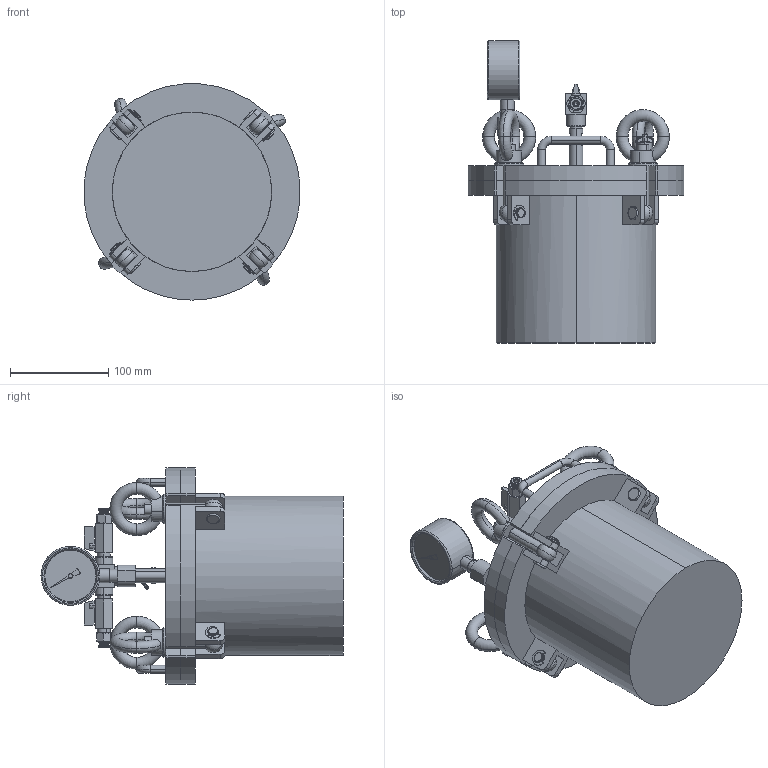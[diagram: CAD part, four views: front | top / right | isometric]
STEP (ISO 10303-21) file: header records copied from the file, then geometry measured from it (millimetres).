
FILE_DESCRIPTION (( 'STEP AP203' ), '1' );
FILE_NAME ('揤漱嫡-Pressurized helium tank_NY21025.STEP', '2026-09-02T05:31:10', ( '' ), ( '' ), 'SwSTEP 2.0', 'SolidWorks 2024', '' );
FILE_SCHEMA (( 'CONFIG_CONTROL_DESIGN' ));
Length unit declared in the file: millimetre
Products named in the file (1): 压氦罐-Pressurized helium tank_NY21025
Bounding box: 219.31 x 307 x 219.66 mm (x, y, z)
Volume: 4520671.6 mm3; surface area: 346872.2 mm2
Topology: 10 solids, 13 shells, 733 faces, 1882 edges, 1208 vertices
Faces by surface type: plane 280, cylinder 279, torus 78, cone 73, bspline 15, sphere 8
Entity records: 28516 total; most frequent: CARTESIAN_POINT 10113, DIRECTION 4036, ORIENTED_EDGE 3756, EDGE_CURVE 1878, AXIS2_PLACEMENT_3D 1620, VERTEX_POINT 1208, CIRCLE 901, EDGE_LOOP 840
